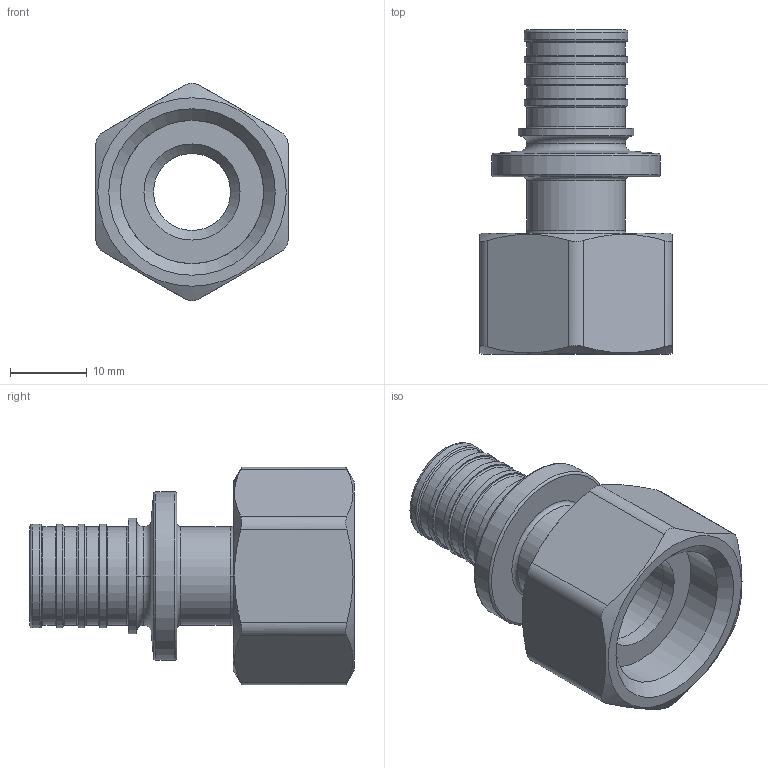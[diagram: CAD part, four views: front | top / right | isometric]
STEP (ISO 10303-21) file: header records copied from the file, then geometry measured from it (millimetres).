
FILE_DESCRIPTION(('STEP AP203'), '1');
FILE_NAME('ﾂﾐ.302612.013.000 ﾑﾁ - VTm.422.G.001604 ﾔ頸. - 裝', '2024-01-23T13:24:22', ('User'), ('Vesta'), 'C3D Converter', 'C3D Toolkit', '');
FILE_SCHEMA(('CONFIG_CONTROL_DESIGN'));
Length unit declared in the file: millimetre
Products named in the file (5): ВР.302612.013.000 СБ; ВР.714651.007; ВР.758421.027; ВР.753612.002; ВР.305323.015
Assembly tree (4 placements, depth 2):
  ВР.302612.013.000 СБ
    ВР.714651.007
    ВР.758421.027
    ВР.753612.002
    ВР.305323.015
Bounding box: 25 x 42.15 x 28.24 mm (x, y, z)
Volume: 7500.8 mm3; surface area: 7146.6 mm2
Topology: 4 solids, 4 shells, 87 faces, 168 edges, 101 vertices
Faces by surface type: plane 26, cylinder 26, torus 24, cone 11
Full cylindrical faces by diameter (mm): 10 x1, 12.5 x2, 12.8 x5, 13.5 x4, 15 x1, 16.5 x1, 18.6 x1, 18.632 x2, 18.7 x1, 20.7 x1, 21.9 x1
Entity records: 3288 total; most frequent: CARTESIAN_POINT 1442, DIRECTION 354, ORIENTED_EDGE 238, AXIS2_PLACEMENT_3D 171, EDGE_LOOP 154, EDGE_CURVE 119, VERTEX_POINT 101, FACE_OUTER_BOUND 93
